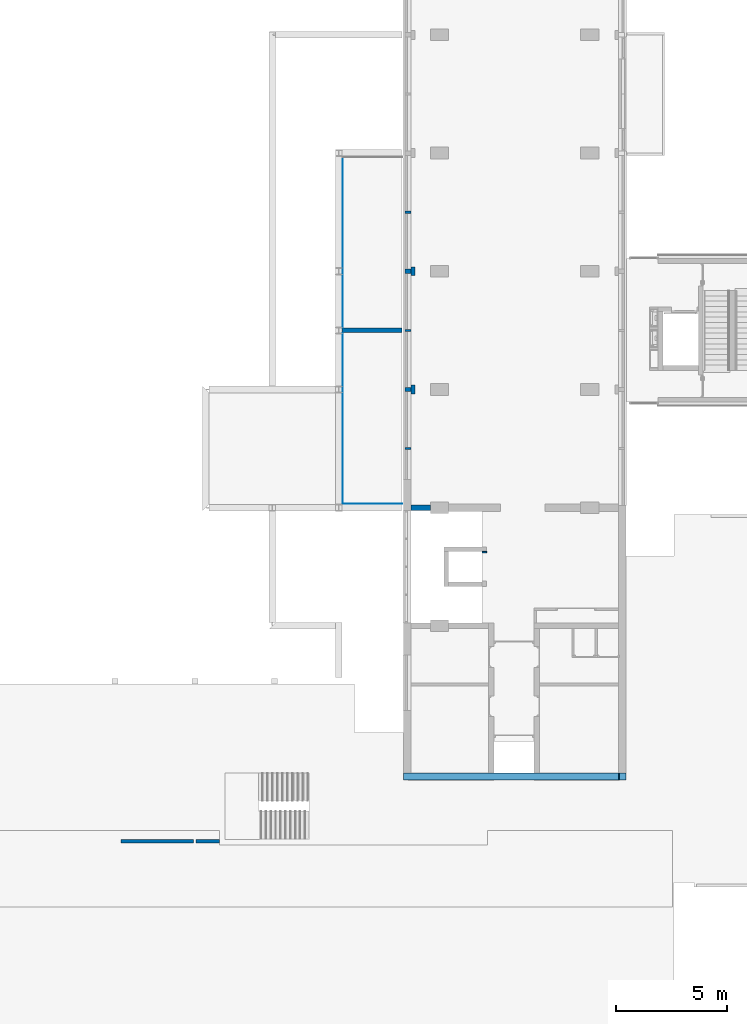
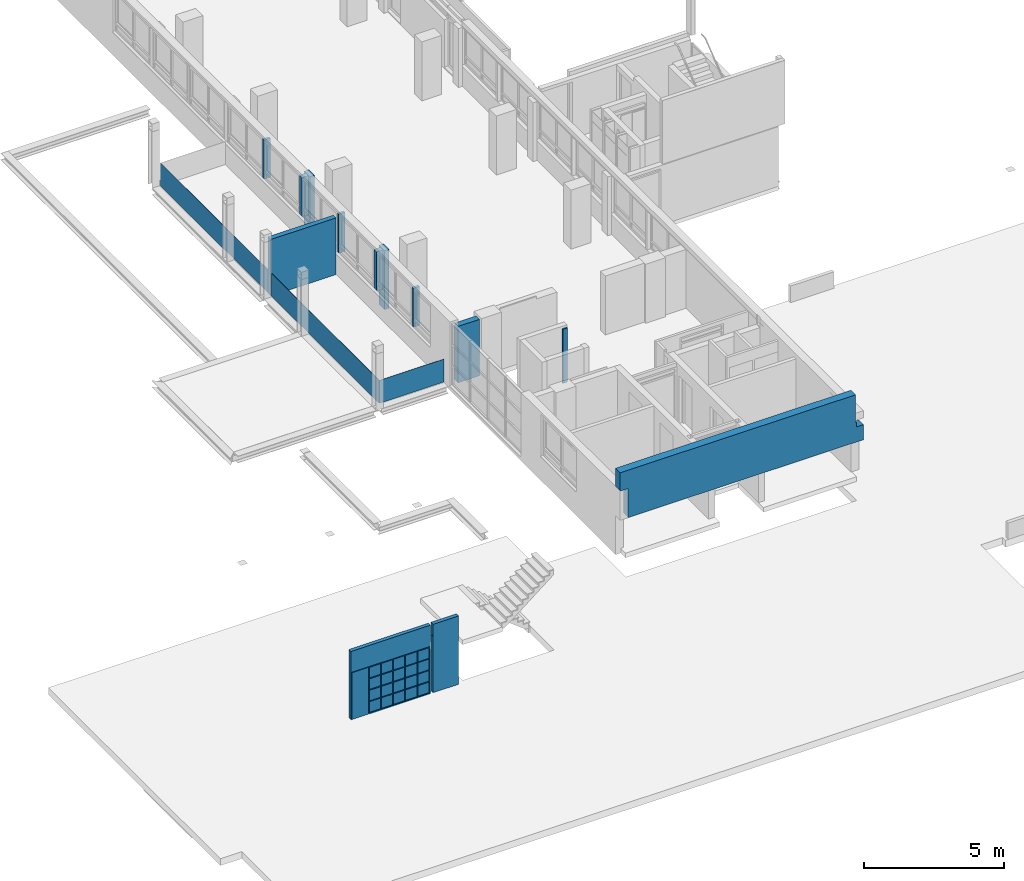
# One storey, part 11 of 22: 15 walls.
"""IFC2X3 building model written with IfcOpenShell, lengths in millimetres."""

from ifc_helpers import new_model, entity, si_unit, converted_unit, derived_unit, money_unit, direction, frame, origin_with_axes, place, context, subcontext, project, spatial, faceted_brep, material, type_object, element, save


model = new_model("IFC2X3")

# Units and contexts
model_context = context("Model", 3, precision=0.01, world=origin_with_axes(), true_north=direction((0.0, 1.0)))
body_context = subcontext(model_context, "Body", "Model", "MODEL_VIEW")
ifc_project = project(units=[si_unit("LENGTHUNIT", "METRE", prefix="MILLI"), si_unit("AREAUNIT", "SQUARE_METRE"), si_unit("VOLUMEUNIT", "CUBIC_METRE"), converted_unit("PLANEANGLEUNIT", "DEGREE", entity("IfcPlaneAngleMeasure", 0.0174532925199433), si_unit("PLANEANGLEUNIT", "RADIAN"), dimensions=[0, 0, 0, 0, 0, 0, 0]), money_unit("EUR"), converted_unit("TIMEUNIT", "Year", entity("IfcTimeMeasure", 31557600.0), si_unit("TIMEUNIT", "SECOND"), dimensions=[0, 0, 1, 0, 0, 0, 0]), si_unit("MASSUNIT", "GRAM", prefix="KILO"), si_unit("THERMODYNAMICTEMPERATUREUNIT", "DEGREE_CELSIUS"), si_unit("LUMINOUSINTENSITYUNIT", "LUMEN"), si_unit("ENERGYUNIT", "JOULE", prefix="MEGA"), derived_unit("THERMALCONDUCTANCEUNIT", [(si_unit("POWERUNIT", "WATT"), 1), (si_unit("LENGTHUNIT", "METRE"), -1), (si_unit("THERMODYNAMICTEMPERATUREUNIT", "KELVIN"), -1)]), derived_unit("SPECIFICHEATCAPACITYUNIT", [(si_unit("ENERGYUNIT", "JOULE"), 1), (si_unit("MASSUNIT", "GRAM", prefix="KILO"), -1), (si_unit("THERMODYNAMICTEMPERATUREUNIT", "KELVIN"), -1)]), derived_unit("MASSDENSITYUNIT", [(si_unit("MASSUNIT", "GRAM", prefix="KILO"), 1), (si_unit("VOLUMEUNIT", "CUBIC_METRE"), -1)])], contexts=[model_context])

# Site, building, storey
site_placement = place(None, origin_with_axes())
site = spatial("IfcSite", under=ifc_project, at=site_placement, Name="Site", CompositionType="ELEMENT")
building_placement = place(site_placement, origin_with_axes())
building = spatial("IfcBuilding", under=site, at=building_placement, Name="Naam gebouw", CompositionType="ELEMENT")
storey_placement = place(building_placement, frame((0.0, 0.0, 8690.0), z_axis=(0.0, 0.0, 1.0), x_axis=(1.0, 0.0, 0.0)))
storey = spatial("IfcBuildingStorey", under=building, at=storey_placement, Name="2e verdieping V", CompositionType="ELEMENT", Elevation=8690.0)

# Walls
ifc_material_1 = material(Name="ALG - CONSTRUCTIEF")
wall_type_1 = type_object("IfcWallType", Name="ALG - CONSTRUCTIEF 200", PredefinedType="NOTDEFINED")
wall_1_placement = place(storey_placement, frame((23855.44427079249, 25919.44436129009, -99.99999999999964), z_axis=(0.0, 0.0, 1.0), x_axis=(0.0, 1.0, 0.0)))
element("IfcWall", 1, at=wall_1_placement, inside=storey, type_object=wall_type_1, material=ifc_material_1, Name="_Wand-x", context=body_context, shape_type="Brep", body=[
    faceted_brep([(0.0, -100.0000000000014, 2460.000000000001), (0.0, -100.0000000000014, 99.99999999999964), (61.46806381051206, -100.0000000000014, 99.99999999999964), (61.46806381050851, -100.0000000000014, 2460.000000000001), (0.0, 100.0000000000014, 2460.000000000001), (0.0, 100.0000000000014, 99.99999999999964), (61.46806381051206, 100.0000000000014, 99.99999999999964), (61.46806381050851, 100.0000000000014, 2460.000000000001)], [[[0, 1, 2, 3]], [[4, 5, 1, 0]], [[5, 6, 2, 1]], [[3, 2, 6, 7]], [[7, 4, 0, 3]], [[7, 6, 5, 4]]]),
])
wall_type_2 = type_object("IfcWallType", Name="ALG - CONSTRUCTIEF 330", PredefinedType="NOTDEFINED")
wall_2_placement = place(storey_placement, frame((20536.0, 16000.91242510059, 1500.0), z_axis=(0.0, 0.0, 1.0), x_axis=(1.0, 0.0, 0.0)))
element("IfcWall", 2, at=wall_2_placement, inside=storey, type_object=wall_type_2, material=ifc_material_1, Name="_Wand-x", context=body_context, shape_type="Brep", body=[
    faceted_brep([(9369.99999999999, 0.0, 860.0000000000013), (9369.999999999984, 0.0, 1070.000000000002), (9369.999999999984, 0.0, 1270.000000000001), (9369.99999999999, 0.0, 2070.000000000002), (9369.99999999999, -329.9999999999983, 2070.000000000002), (9369.99999999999, -329.9999999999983, 860.0000000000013), (0.0, 0.0, 0.0), (0.0, 0.0, 1070.000000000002), (9408.999999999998, 0.0, 860.0000000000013), (9408.999999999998, 0.0, 659.9999999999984), (9699.999999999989, 0.0, 659.9999999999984), (9699.999999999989, 0.0, 0.0), (9369.754893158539, -174.9999999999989, 1270.000000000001), (9369.754893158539, -174.9999999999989, 1070.000000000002), (-330.000000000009, 0.0, 1270.000000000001), (-330.000000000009, 0.0, 2070.000000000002), (-330.000000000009, -329.9999999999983, 2070.000000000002), (9699.999999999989, -329.9999999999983, 659.9999999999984), (9408.999999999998, -330.0000000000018, 659.9999999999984), (9408.999999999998, -330.0000000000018, 860.0000000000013), (-330.000000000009, -329.9999999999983, 1270.000000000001), (0.0, -329.9999999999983, 1270.000000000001), (0.0, -329.9999999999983, 770.0000000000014), (0.0, -329.9999999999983, 0.0), (9699.999999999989, -329.9999999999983, 0.0), (0.0, -174.9999999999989, 1270.000000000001), (0.0, -174.9999999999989, 1070.000000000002)], [[[0, 1, 2, 3, 4, 5]], [[6, 7, 1, 0, 8, 9, 10, 11]], [[12, 2, 1, 13]], [[3, 2, 14, 15]], [[15, 16, 4, 3]], [[17, 18, 19, 5, 4, 16, 20, 21, 22, 23, 24]], [[5, 19, 8, 0]], [[25, 26, 7, 6, 23, 22, 21]], [[13, 1, 7, 26]], [[18, 9, 8, 19]], [[18, 17, 10, 9]], [[11, 10, 17, 24]], [[11, 24, 23, 6]], [[14, 2, 12, 25, 21, 20]], [[13, 26, 25, 12]], [[16, 15, 14, 20]]]),
])
wall_type_3 = type_object("IfcWallType", Name="ALG - CONSTRUCTIEF 400", PredefinedType="NOTDEFINED")
wall_3_placement = place(storey_placement, frame((20536.0, 38615.91242510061, -99.99999999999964), z_axis=(0.0, 0.0, 1.0), x_axis=(1.0, 0.0, 0.0)))
element("IfcWall", 3, at=wall_3_placement, inside=storey, type_object=wall_type_3, material=ifc_material_1, Name="_Wand-x", context=body_context, shape_type="Brep", body=[
    faceted_brep([(189.0000000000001, 200.0000000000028, 99.99999999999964), (0.0, 200.0000000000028, 99.99999999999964), (0.0, 200.0000000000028, 2670.000000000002), (189.0000000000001, 200.0000000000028, 2670.000000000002), (189.0000000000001, -200.0000000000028, 99.99999999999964), (0.0, -200.0000000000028, 99.99999999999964), (0.0, -200.0000000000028, 2670.000000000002), (189.0000000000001, -200.0000000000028, 2670.000000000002)], [[[0, 1, 2, 3]], [[4, 5, 1, 0]], [[1, 5, 6, 2]], [[2, 6, 7, 3]], [[4, 0, 3, 7]], [[5, 4, 7, 6]]]),
])
wall_4_placement = place(storey_placement, frame((20536.0, 33285.91242510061, 0.0), z_axis=(0.0, 0.0, 1.0), x_axis=(1.0, 0.0, 0.0)))
element("IfcWall", 4, at=wall_4_placement, inside=storey, type_object=wall_type_3, material=ifc_material_1, Name="_Wand-x", context=body_context, shape_type="Brep", body=[
    faceted_brep([(189.0000000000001, 200.0000000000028, 0.0), (0.0, 200.0000000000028, 0.0), (0.0, 200.0000000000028, 2570.000000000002), (189.0000000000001, 200.0000000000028, 2570.000000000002), (189.0000000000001, -200.0000000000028, 0.0), (0.0, -200.0000000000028, 0.0), (0.0, -200.0000000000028, 2570.000000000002), (189.0000000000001, -200.0000000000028, 2570.000000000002)], [[[0, 1, 2, 3]], [[4, 5, 1, 0]], [[1, 5, 6, 2]], [[2, 6, 7, 3]], [[4, 0, 3, 7]], [[5, 4, 7, 6]]]),
])
wall_type_4 = type_object("IfcWallType", Name="ALG - CONSTRUCTIEF 250", PredefinedType="NOTDEFINED")
wall_5_placement = place(storey_placement, frame((20536.0, 27955.91242510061, 0.0), z_axis=(0.0, 0.0, 1.0), x_axis=(1.0, 0.0, 0.0)))
element("IfcWall", 5, at=wall_5_placement, inside=storey, type_object=wall_type_4, material=ifc_material_1, Name="_Wand-x", context=body_context, shape_type="Brep", body=[
    faceted_brep([(0.0, -124.9999999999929, 2460.000000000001), (890.0000000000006, -124.9999999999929, 2460.000000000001), (890.0000000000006, 125.0000000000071, 2460.000000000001), (0.0, 125.0000000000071, 2460.000000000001), (0.0, -124.9999999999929, 0.0), (890.0000000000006, -125.0, 0.0), (890.0000000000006, 125.0, 0.0), (0.0, 125.0000000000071, 0.0)], [[[0, 1, 2, 3]], [[4, 5, 1, 0]], [[5, 6, 2, 1]], [[3, 2, 6, 7]], [[4, 0, 3, 7]], [[7, 6, 5, 4]]]),
])
wall_type_5 = type_object("IfcWallType", Name="ALG - CONSTRUCTIEF 260", PredefinedType="NOTDEFINED")
wall_6_placement = place(storey_placement, frame((20276.00000000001, 30570.91242510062, 849.9999999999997), z_axis=(0.0, 0.0, 1.0), x_axis=(0.0, 1.0, 0.0)))
element("IfcWall", 6, at=wall_6_placement, inside=storey, type_object=wall_type_5, material=ifc_material_1, Name="_Wand-x", context=body_context, shape_type="Brep", body=[
    faceted_brep([(100.0000000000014, 0.0, 0.0), (100.0000000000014, 0.0, 15.60184484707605), (100.0000000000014, -6.999999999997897, 16.83613371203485), (100.0000000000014, -6.999999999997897, 28.51433297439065), (100.0000000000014, -4.999999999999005, 28.51433297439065), (100.0000000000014, -4.999999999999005, 18.51433297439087), (100.0000000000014, 0.0, 17.63269807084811), (100.0000000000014, 0.0, 1699.999999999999), (99.99999999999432, -260.0000000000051, 1699.999999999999), (99.99999999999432, -260.0000000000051, 0.0), (0.0, 0.0, 0.0), (0.0, 0.0, 15.60184484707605), (0.0, -6.999999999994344, 16.83613371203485), (0.0, -6.999999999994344, 28.51433297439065), (0.0, -4.999999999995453, 28.51433297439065), (0.0, -4.999999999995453, 18.51433297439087), (0.0, 0.0, 17.63269807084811), (0.0, 0.0, 1699.999999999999), (0.0, -260.0000000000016, 1699.999999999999), (0.0, -260.0000000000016, 0.0)], [[[0, 1, 2, 3, 4, 5, 6, 7, 8, 9]], [[10, 11, 1, 0]], [[12, 2, 1, 11]], [[13, 3, 2, 12]], [[14, 4, 3, 13]], [[15, 5, 4, 14]], [[16, 6, 5, 15]], [[7, 6, 16, 17]], [[17, 18, 8, 7]], [[18, 19, 9, 8]], [[19, 10, 0, 9]], [[13, 12, 11, 10, 19, 18, 17, 16, 15, 14]]]),
])
for number, where, z_axis, x_axis, name in (
    (7, (20276.0, 33185.91242510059, 849.9999999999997), (0.0, 0.0, 1.0), (0.0, 1.0, 0.0), "_Wand-x"),
    (8, (20276.0, 38515.91242510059, 849.9999999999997), (0.0, 0.0, 1.0), (0.0, 1.0, 0.0), "_Wand-x"),
):
    element("IfcWall", number, at=place(storey_placement, frame(where, z_axis=z_axis, x_axis=x_axis)), inside=storey, type_object=wall_type_5, material=ifc_material_1, Name=name, context=body_context, shape_type="Brep", body=[
        faceted_brep([(200.0000000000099, 0.0, 0.0), (200.0000000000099, 0.0, 15.60184484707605), (200.0000000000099, -6.999999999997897, 16.83613371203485), (200.0000000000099, -6.999999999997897, 28.51433297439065), (200.0000000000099, -4.999999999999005, 28.51433297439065), (200.0000000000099, -4.999999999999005, 18.51433297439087), (200.0000000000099, 0.0, 17.63269807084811), (200.0000000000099, 0.0, 1699.999999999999), (200.0000000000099, -260.0000000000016, 1699.999999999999), (200.0000000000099, -260.0000000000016, 0.0), (0.0, 0.0, 0.0), (0.0, 0.0, 15.60184484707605), (0.0, -6.999999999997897, 16.83613371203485), (0.0, -6.999999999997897, 28.51433297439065), (0.0, -4.999999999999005, 28.51433297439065), (0.0, -4.999999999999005, 18.51433297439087), (0.0, 0.0, 17.63269807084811), (0.0, 0.0, 1699.999999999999), (0.0, -260.0000000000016, 1699.999999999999), (0.0, -260.0000000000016, 0.0)], [[[0, 1, 2, 3, 4, 5, 6, 7, 8, 9]], [[10, 11, 1, 0]], [[12, 2, 1, 11]], [[13, 3, 2, 12]], [[14, 4, 3, 13]], [[15, 5, 4, 14]], [[16, 6, 5, 15]], [[7, 6, 16, 17]], [[17, 18, 8, 7]], [[18, 19, 9, 8]], [[19, 10, 0, 9]], [[13, 12, 11, 10, 19, 18, 17, 16, 15, 14]]]),
    ])
wall_7_placement = place(storey_placement, frame((20276.00000000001, 35900.91242510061, 849.9999999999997), z_axis=(0.0, 0.0, 1.0), x_axis=(0.0, 1.0, 0.0)))
element("IfcWall", 9, at=wall_7_placement, inside=storey, type_object=wall_type_5, material=ifc_material_1, Name="_Wand-x", context=body_context, shape_type="Brep", body=[
    faceted_brep([(100.0000000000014, 0.0, 0.0), (100.0000000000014, 0.0, 15.60184484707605), (100.0000000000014, -6.999999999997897, 16.83613371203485), (100.0000000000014, -6.999999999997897, 28.51433297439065), (100.0000000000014, -4.999999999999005, 28.51433297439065), (100.0000000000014, -4.999999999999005, 18.51433297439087), (100.0000000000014, 0.0, 17.63269807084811), (100.0000000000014, 0.0, 1699.999999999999), (99.99999999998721, -260.0000000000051, 1699.999999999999), (99.99999999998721, -260.0000000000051, 0.0), (0.0, 0.0, 0.0), (0.0, 0.0, 15.60184484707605), (0.0, -6.999999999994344, 16.83613371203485), (0.0, -6.999999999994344, 28.51433297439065), (0.0, -4.999999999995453, 28.51433297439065), (0.0, -4.999999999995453, 18.51433297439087), (0.0, 0.0, 17.63269807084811), (0.0, 0.0, 1699.999999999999), (0.0, -260.0000000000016, 1699.999999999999), (0.0, -260.0000000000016, 0.0)], [[[0, 1, 2, 3, 4, 5, 6, 7, 8, 9]], [[10, 11, 1, 0]], [[12, 2, 1, 11]], [[13, 3, 2, 12]], [[14, 4, 3, 13]], [[15, 5, 4, 14]], [[16, 6, 5, 15]], [[7, 6, 16, 17]], [[17, 18, 8, 7]], [[18, 19, 9, 8]], [[19, 10, 0, 9]], [[13, 12, 11, 10, 19, 18, 17, 16, 15, 14]]]),
])
wall_8_placement = place(storey_placement, frame((20276.00000000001, 41230.91242510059, 849.9999999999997), z_axis=(0.0, 0.0, 1.0), x_axis=(0.0, 1.0, 0.0)))
element("IfcWall", 10, at=wall_8_placement, inside=storey, type_object=wall_type_5, material=ifc_material_1, Name="_Wand-x", context=body_context, shape_type="Brep", body=[
    faceted_brep([(100.0000000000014, 0.0, 0.0), (100.0000000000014, 0.0, 15.60184484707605), (100.0000000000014, -6.999999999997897, 16.83613371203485), (100.0000000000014, -6.999999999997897, 28.51433297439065), (100.0000000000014, -4.999999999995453, 28.51433297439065), (100.0000000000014, -4.999999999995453, 18.51433297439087), (100.0000000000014, 0.0, 17.63269807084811), (100.0000000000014, 0.0, 1699.999999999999), (99.99999999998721, -260.0000000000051, 1699.999999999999), (99.99999999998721, -260.0000000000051, 0.0), (0.0, 0.0, 0.0), (0.0, 0.0, 15.60184484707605), (0.0, -6.999999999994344, 16.83613371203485), (0.0, -6.999999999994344, 28.51433297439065), (0.0, -4.9999999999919, 28.51433297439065), (0.0, -4.9999999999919, 18.51433297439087), (0.0, 0.0, 17.63269807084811), (0.0, 0.0, 1699.999999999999), (0.0, -260.0000000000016, 1699.999999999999), (0.0, -260.0000000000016, 0.0)], [[[0, 1, 2, 3, 4, 5, 6, 7, 8, 9]], [[10, 11, 1, 0]], [[12, 2, 1, 11]], [[13, 3, 2, 12]], [[14, 4, 3, 13]], [[15, 5, 4, 14]], [[16, 6, 5, 15]], [[7, 6, 16, 17]], [[17, 18, 8, 7]], [[18, 19, 9, 8]], [[19, 10, 0, 9]], [[13, 12, 11, 10, 19, 18, 17, 16, 15, 14]]]),
])
ifc_material_2 = material(Name="glas gehard")
wall_type_6 = type_object("IfcWallType", Name="Basic Wall:34_WA_hard glazen balustrade", PredefinedType="STANDARD")
wall_9_placement = place(storey_placement, frame((20141.00000005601, 28135.91242628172, 0.0), z_axis=(0.0, 0.0, 1.0), x_axis=(-1.0, 0.0, 0.0)))
element("IfcWall", 11, at=wall_9_placement, inside=storey, type_object=wall_type_6, material=ifc_material_2, Name="Basic Wall:34_WA_hard glazen balustrade", context=body_context, shape_type="Brep", body=[
    faceted_brep([(2675.000000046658, -5.000000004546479, 0.0), (1.101341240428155e-10, -5.000000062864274, 0.0), (-1.06581410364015e-10, 5.000000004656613, 0.0), (2675.000000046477, 5.000000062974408, 0.0), (2675.000000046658, -5.000000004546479, 1000.0), (1.101341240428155e-10, -5.000000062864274, 1000.0), (-1.06581410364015e-10, 5.000000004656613, 1000.0), (2675.000000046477, 5.000000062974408, 1000.0)], [[[0, 1, 2, 3]], [[4, 5, 1, 0]], [[2, 1, 5, 6]], [[3, 2, 6, 7]], [[3, 7, 4, 0]], [[7, 6, 5, 4]]]),
])
wall_10_placement = place(storey_placement, frame((17471.00000007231, 43765.91242628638, 0.0), z_axis=(0.0, 0.0, 1.0), x_axis=(0.0, -1.0, 0.0)))
element("IfcWall", 12, at=wall_10_placement, inside=storey, type_object=wall_type_6, material=ifc_material_2, Name="Basic Wall:34_WA_hard glazen balustrade", context=body_context, shape_type="Brep", body=[
    faceted_brep([(7695.000000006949, 5.000000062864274, 0.0), (7695.000000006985, -4.999999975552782, 0.0), (5.000000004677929, -5.000000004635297, 0.0), (5.000000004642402, 5.00000003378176, 0.0), (7695.000000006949, 5.000000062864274, 1000.0), (7695.000000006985, -4.999999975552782, 1000.0), (5.000000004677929, -5.000000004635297, 1000.0), (5.000000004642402, 5.00000003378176, 1000.0)], [[[0, 1, 2, 3]], [[0, 4, 5, 1]], [[1, 5, 6, 2]], [[3, 2, 6, 7]], [[4, 0, 3, 7]], [[5, 4, 7, 6]]]),
])
wall_11_placement = place(storey_placement, frame((17471.0000000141, 28135.91242633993, 0.0), z_axis=(0.0, 0.0, 1.0), x_axis=(0.0, 1.0, 0.0)))
element("IfcWall", 13, at=wall_11_placement, inside=storey, type_object=wall_type_6, material=ifc_material_2, Name="Basic Wall:34_WA_hard glazen balustrade", context=body_context, shape_type="Brep", body=[
    faceted_brep([(7695.000000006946, 5.000000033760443, 0.0), (7695.000000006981, -4.999999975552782, 0.0), (5.000000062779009, -5.000000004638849, 0.0), (5.000000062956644, 5.000000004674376, 0.0), (7695.000000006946, 5.000000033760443, 1000.0), (7695.000000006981, -4.999999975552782, 1000.0), (5.000000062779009, -5.000000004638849, 1000.0), (5.000000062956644, 5.000000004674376, 1000.0)], [[[0, 1, 2, 3]], [[0, 4, 5, 1]], [[1, 5, 6, 2]], [[3, 2, 6, 7]], [[4, 0, 3, 7]], [[5, 4, 7, 6]]]),
])
ifc_material_3 = material(Name="Wall Basis")
wall_type_7 = type_object("IfcWallType", Name="Basic Wall:NLRS_20_basis 200mm", PredefinedType="STANDARD")
wall_12_placement = place(storey_placement, frame((20140.9999999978, 35950.91242628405, 0.0), z_axis=(0.0, 0.0, 1.0), x_axis=(-1.0, 0.0, 0.0)))
element("IfcWall", 14, at=wall_12_placement, inside=storey, type_object=wall_type_7, material=ifc_material_3, Name="Basic Wall:NLRS_20_basis 200mm", context=body_context, shape_type="Brep", body=[
    faceted_brep([(-2.156497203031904e-09, 100.0000000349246, 0.0), (2698.999999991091, 100.0000000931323, 0.0), (2698.999999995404, -99.99999991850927, 0.0), (2.156497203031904e-09, -99.99999997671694, 0.0), (-2.156497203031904e-09, 100.0000000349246, 2470.0), (2698.999999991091, 100.0000000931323, 2470.0), (2698.999999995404, -99.99999991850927, 2470.0), (2.156497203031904e-09, -99.99999997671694, 2470.0)], [[[0, 1, 2, 3]], [[4, 5, 1, 0]], [[2, 1, 5, 6]], [[3, 2, 6, 7]], [[4, 0, 3, 7]], [[7, 6, 5, 4]]]),
])
ifc_material_4 = material(Name="ALG - ALGEMEEN")
wall_type_8 = type_object("IfcWallType", Name="ALG - ALGEMEEN 150", PredefinedType="NOTDEFINED")
wall_13_placement = place(storey_placement, frame((12155.50051848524, 12919.60803964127, -1039.999999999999), z_axis=(0.0, 0.0, 1.0), x_axis=(-1.0, 0.0, 0.0)))
element("IfcWall", 15, at=wall_13_placement, inside=storey, type_object=wall_type_8, material=ifc_material_4, Name="_Wand-x", context=body_context, shape_type="Brep", body=[
    faceted_brep([(1405.500518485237, -75.00000000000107, 2989.999999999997), (1405.500518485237, 74.99999999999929, 2989.999999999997), (1405.500525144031, 74.99999999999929, 4.999999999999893), (1405.500525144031, -74.99999999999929, 4.999999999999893), (4685.500500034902, -74.99999999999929, 2989.999999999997), (4685.500500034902, 74.99999999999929, 2989.999999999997), (4685.500476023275, 74.99999999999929, 4.999999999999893), (4660.500518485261, 74.99999999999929, 49.99999999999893), (4660.500518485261, 74.99999999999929, 2069.999999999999), (1430.500518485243, 74.99999999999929, 2069.999999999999), (1430.500518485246, 74.99999999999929, 49.99999999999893), (3970.500518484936, 74.99999999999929, 49.99999999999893), (3970.500518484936, 74.99999999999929, 2049.999999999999), (4640.500518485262, 74.99999999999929, 2049.999999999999), (4640.500518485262, 74.99999999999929, 49.99999999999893), (4685.500476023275, -75.00000000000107, 4.999999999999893), (1430.500518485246, -75.00000000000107, 49.99999999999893), (1430.500518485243, -75.00000000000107, 2069.999999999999), (4660.500518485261, -75.00000000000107, 2069.999999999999), (4660.500518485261, -75.00000000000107, 49.99999999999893), (4640.500518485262, -75.00000000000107, 49.99999999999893), (4640.500518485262, -75.00000000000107, 2049.999999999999), (3970.500518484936, -75.00000000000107, 2049.999999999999), (3970.500518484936, -75.00000000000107, 49.99999999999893)], [[[0, 1, 2, 3]], [[4, 5, 1, 0]], [[1, 5, 6, 2], [7, 8, 9, 10, 11, 12, 13, 14]], [[2, 6, 15, 3]], [[4, 0, 3, 15], [16, 17, 18, 19, 20, 21, 22, 23]], [[5, 4, 15, 6]], [[7, 19, 18, 8]], [[9, 8, 18, 17]], [[16, 10, 9, 17]], [[23, 11, 10, 16]], [[11, 23, 22, 12]], [[21, 13, 12, 22]], [[20, 14, 13, 21]], [[19, 7, 14, 20]]]),
    faceted_brep([(3930.50051848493, -75.00000000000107, 70.00000000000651), (3930.50051848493, -75.00000000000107, 530.0000000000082), (3470.500518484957, -75.00000000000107, 530.0000000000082), (3470.500518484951, -75.00000000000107, 70.00000000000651), (3930.50051848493, 74.99999999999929, 70.00000000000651), (3930.50051848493, 74.99999999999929, 530.0000000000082), (3470.500518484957, 74.99999999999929, 530.0000000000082), (3470.500518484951, 74.99999999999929, 70.00000000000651)], [[[0, 1, 2, 3]], [[4, 5, 1, 0]], [[5, 6, 2, 1]], [[3, 2, 6, 7]], [[4, 0, 3, 7]], [[7, 6, 5, 4]]]),
    faceted_brep([(250.0, -74.99999999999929, 2449.999999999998), (250.0, 44.53401021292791, 2449.999999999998), (250.0, 44.53401021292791, 2489.999999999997), (250.0, -75.00000000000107, 2489.999999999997), (250.0, -74.99999999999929, 2989.999999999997), (250.0, 75.00000000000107, 2989.999999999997), (249.9999664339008, 74.99999999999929, 4.999999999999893), (249.9999664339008, -74.99999999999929, 4.999999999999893), (1305.500518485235, 44.53401021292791, 2449.999999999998), (1305.500518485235, -75.00000000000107, 2449.999999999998), (1305.500518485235, 44.53401021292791, 2489.999999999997), (1305.500518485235, -75.00000000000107, 2489.999999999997), (1305.500518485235, -75.00000000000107, 2989.999999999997), (1305.500518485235, 74.99999999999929, 2989.999999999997), (1305.50042413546, 74.99999999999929, 4.999999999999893), (1305.50042413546, -74.99999999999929, 4.999999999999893)], [[[0, 1, 2, 3, 4, 5, 6, 7]], [[8, 1, 0, 9]], [[10, 2, 1, 8]], [[10, 11, 3, 2]], [[4, 3, 11, 12]], [[13, 5, 4, 12]], [[13, 14, 6, 5]], [[14, 15, 7, 6]], [[15, 9, 0, 7]], [[10, 8, 9, 15, 14, 13, 12, 11]]]),
    faceted_brep([(3430.50051848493, -75.00000000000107, 70.00000000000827), (3430.50051848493, -75.00000000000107, 530.00000000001), (2970.500518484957, -75.00000000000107, 530.00000000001), (2970.500518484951, -75.00000000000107, 70.00000000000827), (3430.50051848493, 74.99999999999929, 70.00000000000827), (3430.50051848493, 74.99999999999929, 530.00000000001), (2970.500518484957, 74.99999999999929, 530.00000000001), (2970.500518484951, 74.99999999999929, 70.00000000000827)], [[[0, 1, 2, 3]], [[4, 5, 1, 0]], [[5, 6, 2, 1]], [[3, 2, 6, 7]], [[4, 0, 3, 7]], [[7, 6, 5, 4]]]),
    faceted_brep([(2930.500518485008, -75.00000000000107, 70.00000000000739), (2930.500518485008, -75.00000000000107, 530.0000000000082), (2470.500518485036, -75.00000000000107, 530.0000000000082), (2470.500518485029, -75.00000000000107, 70.00000000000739), (2930.500518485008, 74.99999999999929, 70.00000000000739), (2930.500518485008, 74.99999999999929, 530.0000000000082), (2470.500518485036, 74.99999999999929, 530.0000000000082), (2470.500518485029, 74.99999999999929, 70.00000000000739)], [[[0, 1, 2, 3]], [[4, 5, 1, 0]], [[5, 6, 2, 1]], [[3, 2, 6, 7]], [[4, 0, 3, 7]], [[7, 6, 5, 4]]]),
    faceted_brep([(2430.500518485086, -75.00000000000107, 70.00000000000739), (2430.500518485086, -75.00000000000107, 530.0000000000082), (1970.500518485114, -75.00000000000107, 530.0000000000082), (1970.500518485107, -75.00000000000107, 70.00000000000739), (2430.500518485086, 74.99999999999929, 70.00000000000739), (2430.500518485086, 74.99999999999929, 530.0000000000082), (1970.500518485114, 74.99999999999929, 530.0000000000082), (1970.500518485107, 74.99999999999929, 70.00000000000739)], [[[0, 1, 2, 3]], [[4, 5, 1, 0]], [[5, 6, 2, 1]], [[3, 2, 6, 7]], [[4, 0, 3, 7]], [[7, 6, 5, 4]]]),
    faceted_brep([(1930.500518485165, -75.00000000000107, 70.00000000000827), (1930.500518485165, -75.00000000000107, 530.00000000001), (1470.500518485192, -75.00000000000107, 530.00000000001), (1470.500518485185, -75.00000000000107, 70.00000000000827), (1930.500518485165, 74.99999999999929, 70.00000000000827), (1930.500518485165, 74.99999999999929, 530.00000000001), (1470.500518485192, 74.99999999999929, 530.00000000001), (1470.500518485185, 74.99999999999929, 70.00000000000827)], [[[0, 1, 2, 3]], [[4, 5, 1, 0]], [[5, 6, 2, 1]], [[3, 2, 6, 7]], [[4, 0, 3, 7]], [[7, 6, 5, 4]]]),
    faceted_brep([(3930.50051848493, -75.00000000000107, 570.0000000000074), (3930.50051848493, -75.00000000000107, 1030.000000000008), (3470.500518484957, -75.00000000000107, 1030.000000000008), (3470.500518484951, -75.00000000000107, 570.0000000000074), (3930.50051848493, 74.99999999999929, 570.0000000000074), (3930.50051848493, 74.99999999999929, 1030.000000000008), (3470.500518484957, 74.99999999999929, 1030.000000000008), (3470.500518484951, 74.99999999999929, 570.0000000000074)], [[[0, 1, 2, 3]], [[4, 5, 1, 0]], [[5, 6, 2, 1]], [[3, 2, 6, 7]], [[4, 0, 3, 7]], [[7, 6, 5, 4]]]),
    faceted_brep([(3430.50051848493, -75.00000000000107, 570.0000000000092), (3430.50051848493, -75.00000000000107, 1030.00000000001), (2970.500518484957, -75.00000000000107, 1030.00000000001), (2970.500518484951, -75.00000000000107, 570.0000000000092), (3430.50051848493, 74.99999999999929, 570.0000000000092), (3430.50051848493, 74.99999999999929, 1030.00000000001), (2970.500518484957, 74.99999999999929, 1030.00000000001), (2970.500518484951, 74.99999999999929, 570.0000000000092)], [[[0, 1, 2, 3]], [[4, 5, 1, 0]], [[5, 6, 2, 1]], [[3, 2, 6, 7]], [[4, 0, 3, 7]], [[7, 6, 5, 4]]]),
    faceted_brep([(2930.500518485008, -75.00000000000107, 570.0000000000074), (2930.500518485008, -75.00000000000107, 1030.000000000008), (2470.500518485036, -75.00000000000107, 1030.000000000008), (2470.500518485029, -75.00000000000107, 570.0000000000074), (2930.500518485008, 74.99999999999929, 570.0000000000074), (2930.500518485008, 74.99999999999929, 1030.000000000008), (2470.500518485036, 74.99999999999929, 1030.000000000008), (2470.500518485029, 74.99999999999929, 570.0000000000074)], [[[0, 1, 2, 3]], [[4, 5, 1, 0]], [[5, 6, 2, 1]], [[3, 2, 6, 7]], [[4, 0, 3, 7]], [[7, 6, 5, 4]]]),
    faceted_brep([(2430.500518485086, -75.00000000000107, 570.0000000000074), (2430.500518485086, -75.00000000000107, 1030.000000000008), (1970.500518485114, -75.00000000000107, 1030.000000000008), (1970.500518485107, -75.00000000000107, 570.0000000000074), (2430.500518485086, 74.99999999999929, 570.0000000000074), (2430.500518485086, 74.99999999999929, 1030.000000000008), (1970.500518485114, 74.99999999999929, 1030.000000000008), (1970.500518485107, 74.99999999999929, 570.0000000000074)], [[[0, 1, 2, 3]], [[4, 5, 1, 0]], [[5, 6, 2, 1]], [[3, 2, 6, 7]], [[4, 0, 3, 7]], [[7, 6, 5, 4]]]),
    faceted_brep([(1930.500518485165, -75.00000000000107, 570.0000000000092), (1930.500518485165, -75.00000000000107, 1030.00000000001), (1470.500518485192, -75.00000000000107, 1030.00000000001), (1470.500518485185, -75.00000000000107, 570.0000000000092), (1930.500518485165, 74.99999999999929, 570.0000000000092), (1930.500518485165, 74.99999999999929, 1030.00000000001), (1470.500518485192, 74.99999999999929, 1030.00000000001), (1470.500518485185, 74.99999999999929, 570.0000000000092)], [[[0, 1, 2, 3]], [[4, 5, 1, 0]], [[5, 6, 2, 1]], [[3, 2, 6, 7]], [[4, 0, 3, 7]], [[7, 6, 5, 4]]]),
    faceted_brep([(3930.50051848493, -75.00000000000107, 1070.000000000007), (3930.50051848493, -75.00000000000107, 1530.000000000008), (3470.500518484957, -75.00000000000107, 1530.000000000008), (3470.500518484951, -75.00000000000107, 1070.000000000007), (3930.50051848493, 74.99999999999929, 1070.000000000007), (3930.50051848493, 74.99999999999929, 1530.000000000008), (3470.500518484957, 74.99999999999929, 1530.000000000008), (3470.500518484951, 74.99999999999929, 1070.000000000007)], [[[0, 1, 2, 3]], [[4, 5, 1, 0]], [[5, 6, 2, 1]], [[3, 2, 6, 7]], [[4, 0, 3, 7]], [[7, 6, 5, 4]]]),
    faceted_brep([(3430.50051848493, -75.00000000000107, 1070.000000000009), (3430.50051848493, -75.00000000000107, 1530.00000000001), (2970.500518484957, -75.00000000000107, 1530.00000000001), (2970.500518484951, -75.00000000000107, 1070.000000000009), (3430.50051848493, 74.99999999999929, 1070.000000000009), (3430.50051848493, 74.99999999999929, 1530.00000000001), (2970.500518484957, 74.99999999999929, 1530.00000000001), (2970.500518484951, 74.99999999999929, 1070.000000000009)], [[[0, 1, 2, 3]], [[4, 5, 1, 0]], [[5, 6, 2, 1]], [[3, 2, 6, 7]], [[4, 0, 3, 7]], [[7, 6, 5, 4]]]),
    faceted_brep([(2930.500518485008, -75.00000000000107, 1070.000000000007), (2930.500518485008, -75.00000000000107, 1530.000000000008), (2470.500518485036, -75.00000000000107, 1530.000000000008), (2470.500518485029, -75.00000000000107, 1070.000000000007), (2930.500518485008, 74.99999999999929, 1070.000000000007), (2930.500518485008, 74.99999999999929, 1530.000000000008), (2470.500518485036, 74.99999999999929, 1530.000000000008), (2470.500518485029, 74.99999999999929, 1070.000000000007)], [[[0, 1, 2, 3]], [[4, 5, 1, 0]], [[5, 6, 2, 1]], [[3, 2, 6, 7]], [[4, 0, 3, 7]], [[7, 6, 5, 4]]]),
    faceted_brep([(2430.500518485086, -75.00000000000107, 1070.000000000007), (2430.500518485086, -75.00000000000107, 1530.000000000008), (1970.500518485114, -75.00000000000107, 1530.000000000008), (1970.500518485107, -75.00000000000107, 1070.000000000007), (2430.500518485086, 74.99999999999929, 1070.000000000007), (2430.500518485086, 74.99999999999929, 1530.000000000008), (1970.500518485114, 74.99999999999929, 1530.000000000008), (1970.500518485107, 74.99999999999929, 1070.000000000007)], [[[0, 1, 2, 3]], [[4, 5, 1, 0]], [[5, 6, 2, 1]], [[3, 2, 6, 7]], [[4, 0, 3, 7]], [[7, 6, 5, 4]]]),
    faceted_brep([(1930.500518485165, -75.00000000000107, 1070.000000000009), (1930.500518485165, -75.00000000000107, 1530.00000000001), (1470.500518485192, -75.00000000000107, 1530.00000000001), (1470.500518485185, -75.00000000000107, 1070.000000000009), (1930.500518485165, 74.99999999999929, 1070.000000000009), (1930.500518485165, 74.99999999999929, 1530.00000000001), (1470.500518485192, 74.99999999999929, 1530.00000000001), (1470.500518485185, 74.99999999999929, 1070.000000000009)], [[[0, 1, 2, 3]], [[4, 5, 1, 0]], [[5, 6, 2, 1]], [[3, 2, 6, 7]], [[4, 0, 3, 7]], [[7, 6, 5, 4]]]),
    faceted_brep([(3930.500518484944, -75.00000000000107, 1570.000000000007), (3930.500518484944, -75.00000000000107, 2030.000000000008), (3470.500518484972, -75.00000000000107, 2030.000000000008), (3470.500518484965, -75.00000000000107, 1570.000000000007), (3930.500518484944, 74.99999999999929, 1570.000000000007), (3930.500518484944, 74.99999999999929, 2030.000000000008), (3470.500518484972, 74.99999999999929, 2030.000000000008), (3470.500518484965, 74.99999999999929, 1570.000000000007)], [[[0, 1, 2, 3]], [[4, 5, 1, 0]], [[5, 6, 2, 1]], [[3, 2, 6, 7]], [[4, 0, 3, 7]], [[7, 6, 5, 4]]]),
    faceted_brep([(3430.500518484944, -75.00000000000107, 1570.000000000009), (3430.500518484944, -75.00000000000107, 2030.00000000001), (2970.500518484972, -75.00000000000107, 2030.00000000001), (2970.500518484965, -75.00000000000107, 1570.000000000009), (3430.500518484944, 74.99999999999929, 1570.000000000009), (3430.500518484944, 74.99999999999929, 2030.00000000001), (2970.500518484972, 74.99999999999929, 2030.00000000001), (2970.500518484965, 74.99999999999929, 1570.000000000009)], [[[0, 1, 2, 3]], [[4, 5, 1, 0]], [[5, 6, 2, 1]], [[3, 2, 6, 7]], [[4, 0, 3, 7]], [[7, 6, 5, 4]]]),
    faceted_brep([(2930.500518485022, -75.00000000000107, 1570.000000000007), (2930.500518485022, -75.00000000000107, 2030.000000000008), (2470.50051848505, -75.00000000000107, 2030.000000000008), (2470.500518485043, -75.00000000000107, 1570.000000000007), (2930.500518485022, 74.99999999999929, 1570.000000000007), (2930.500518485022, 74.99999999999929, 2030.000000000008), (2470.50051848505, 74.99999999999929, 2030.000000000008), (2470.500518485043, 74.99999999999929, 1570.000000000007)], [[[0, 1, 2, 3]], [[4, 5, 1, 0]], [[5, 6, 2, 1]], [[3, 2, 6, 7]], [[4, 0, 3, 7]], [[7, 6, 5, 4]]]),
    faceted_brep([(2430.500518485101, -75.00000000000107, 1570.000000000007), (2430.500518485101, -75.00000000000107, 2030.000000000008), (1970.500518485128, -75.00000000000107, 2030.000000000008), (1970.500518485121, -75.00000000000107, 1570.000000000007), (2430.500518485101, 74.99999999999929, 1570.000000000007), (2430.500518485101, 74.99999999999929, 2030.000000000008), (1970.500518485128, 74.99999999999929, 2030.000000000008), (1970.500518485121, 74.99999999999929, 1570.000000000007)], [[[0, 1, 2, 3]], [[4, 5, 1, 0]], [[5, 6, 2, 1]], [[3, 2, 6, 7]], [[4, 0, 3, 7]], [[7, 6, 5, 4]]]),
    faceted_brep([(1930.500518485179, -75.00000000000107, 1570.000000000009), (1930.500518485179, -75.00000000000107, 2030.00000000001), (1470.500518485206, -75.00000000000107, 2030.00000000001), (1470.500518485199, -75.00000000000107, 1570.000000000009), (1930.500518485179, 74.99999999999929, 1570.000000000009), (1930.500518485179, 74.99999999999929, 2030.00000000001), (1470.500518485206, 74.99999999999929, 2030.00000000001), (1470.500518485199, 74.99999999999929, 1570.000000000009)], [[[0, 1, 2, 3]], [[4, 5, 1, 0]], [[5, 6, 2, 1]], [[3, 2, 6, 7]], [[4, 0, 3, 7]], [[7, 6, 5, 4]]]),
])

save(model, "model.ifc")
